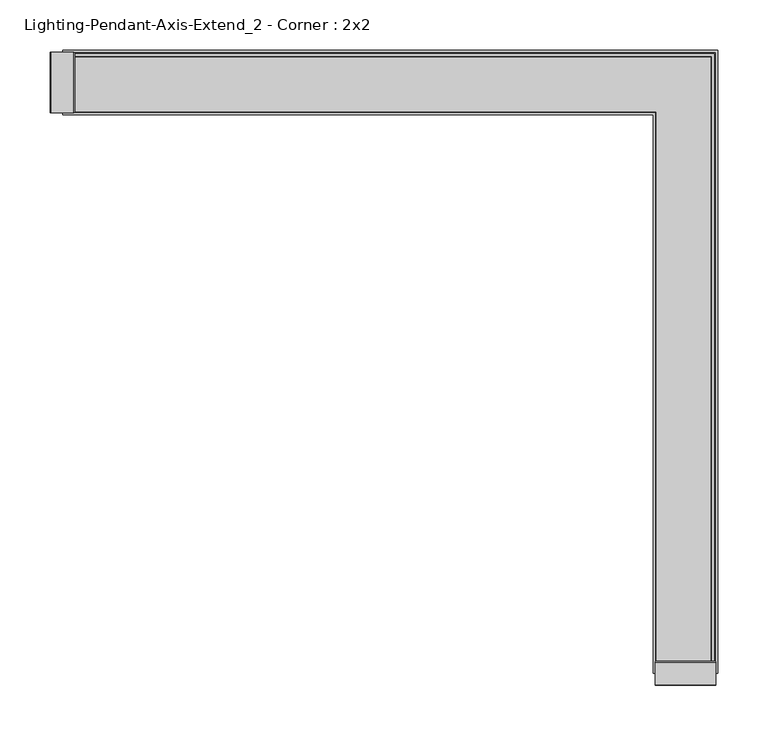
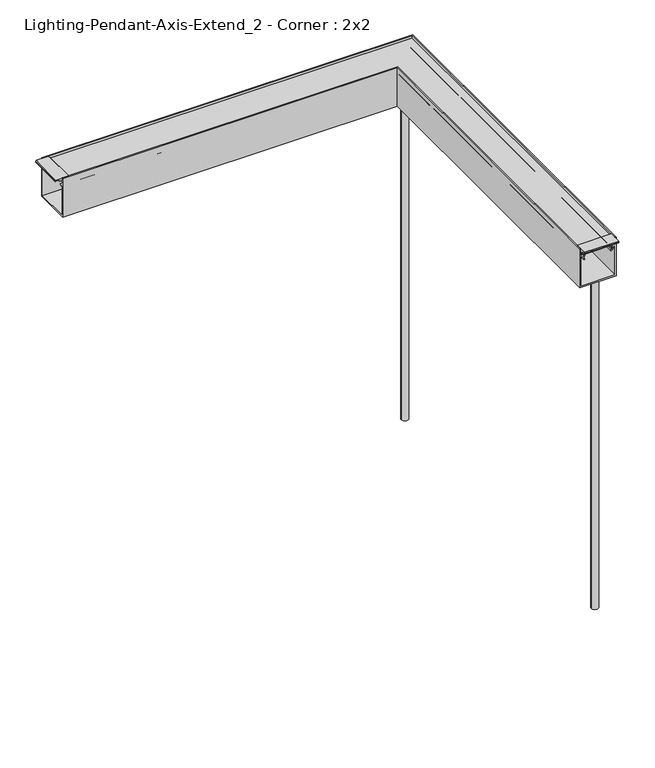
"""IFC4 building model written with IfcOpenShell, lengths in millimetres: light fixture geometry, Lighting-Pendant-Axis-Extend_2 - Corner : 2x2."""

from ifc_helpers import new_model, si_unit, frame, origin, place, context, project, spatial, polyline, circle_curve, ellipse_curve, outline, extrude, source, transform, mapped, element, save
from ifc_brep_helpers import plane_surface, cylinder_surface, revolved_surface, advanced_brep


def lighting_pendant_axis_extend_2_corner_2x2_e182f400(model_context):
    return source(origin(), model_context, "Body", "SolidModel", [
        advanced_brep(
        [(311.15, -577.596, 609.6), (298.45, -577.596, 609.6), (304.8, -577.596, 609.6), (311.15, -577.596, 0.0), (298.45, -577.596, 0.0), (304.8, -577.596, 0.0)],
        [
            (0, 1, circle_curve(frame((304.8, -577.596, 609.6), z_axis=(0.0, 0.0, 1.0), x_axis=(-1.0, 0.0, 0.0)), 6.35)),
            (1, 2),
            (2, 0),
            (1, 0, circle_curve(frame((304.8, -577.596, 609.6), z_axis=(0.0, 0.0, 1.0), x_axis=(-1.0, 0.0, 0.0)), 6.35)),
            (3, 4, circle_curve(frame((304.8, -577.596, 0.0), z_axis=(0.0, 0.0, 1.0), x_axis=(-1.0, 0.0, 0.0)), 6.35)),
            (4, 1),
            (0, 3),
            (4, 3, circle_curve(frame((304.8, -577.596, 0.0), z_axis=(0.0, 0.0, 1.0), x_axis=(-1.0, 0.0, 0.0)), 6.35)),
            (5, 4),
            (3, 5),
        ],
        [
            plane_surface(frame((304.8, -577.596, 609.6), z_axis=(0.0, 0.0, 1.0), x_axis=(-1.0, 0.0, 0.0))),
            cylinder_surface(frame((304.8, -577.596, 2913.8581012), z_axis=(0.0, 0.0, -1.0), x_axis=(-1.0, 0.0, 0.0)), 6.35),
            plane_surface(frame((304.8, -577.596, 0.0), z_axis=(0.0, 0.0, -1.0), x_axis=(-1.0, 0.0, 0.0))),
        ],
        [
            (0, [[1, 2, 3]]),
            (0, [[4, -3, -2]]),
            (1, [[5, 6, -1, 7]]),
            (1, [[8, -7, -4, -6]]),
            (2, [[9, -5, 10]]),
            (2, [[-10, -8, -9]]),
        ],
    ),
        extrude(outline(polyline([(-574.6496, 679.9357861), (-574.6496, 678.46575), (-575.44335, 678.46575), (-575.44335, 679.2595), (-581.914, 679.2595), (-581.914, 676.4532981), (-591.5914, 676.4532981), (-591.5914, 679.2595), (-598.06205, 679.2595), (-598.06205, 678.46575), (-598.8558, 678.46575), (-598.8558, 679.9357861), (-597.9312563, 681.0375), (-575.5741437, 681.0375), (-574.6496, 679.9357861)])), frame((274.828, 0.0, 0.0), z_axis=(1.0, 0.0, 0.0), x_axis=(0.0, 1.0, 0.0)), (0.0, 0.0, 1.0), 59.944),
        extrude(outline(polyline([(679.9357861, -301.8536), (681.0375, -302.7781437), (681.0375, -325.1352563), (679.9357861, -326.0598), (678.46575, -326.0598), (678.46575, -325.26605), (679.2595, -325.26605), (679.2595, -318.7954), (676.4532981, -318.7954), (676.4532981, -309.118), (679.2595, -309.118), (679.2595, -302.64735), (678.46575, -302.64735), (678.46575, -301.8536), (679.9357861, -301.8536)])), frame((0.0, -29.972, 0.0), z_axis=(0.0, 1.0, 0.0), x_axis=(0.0, 0.0, 1.0)), (0.0, 0.0, 1.0), 59.944),
        advanced_brep(
        [(311.15, 0.0, 609.6), (298.45, 0.0, 609.6), (304.8, 0.0, 609.6), (311.15, 0.0, 0.0), (298.45, 0.0, 0.0), (304.8, 0.0, 0.0)],
        [
            (0, 1, circle_curve(frame((304.8, 0.0, 609.6), z_axis=(0.0, 0.0, 1.0), x_axis=(-1.0, 0.0, 0.0)), 6.35)),
            (1, 2),
            (2, 0),
            (1, 0, circle_curve(frame((304.8, 0.0, 609.6), z_axis=(0.0, 0.0, 1.0), x_axis=(-1.0, 0.0, 0.0)), 6.35)),
            (3, 4, circle_curve(frame((304.8, 0.0, 0.0), z_axis=(0.0, 0.0, 1.0), x_axis=(-1.0, 0.0, 0.0)), 6.35)),
            (4, 1),
            (0, 3),
            (4, 3, circle_curve(frame((304.8, 0.0, 0.0), z_axis=(0.0, 0.0, 1.0), x_axis=(-1.0, 0.0, 0.0)), 6.35)),
            (5, 4),
            (3, 5),
        ],
        [
            plane_surface(frame((304.8, 0.0, 609.6), z_axis=(0.0, 0.0, 1.0), x_axis=(-1.0, 0.0, 0.0))),
            cylinder_surface(frame((304.8, 0.0, 2913.8581012), z_axis=(0.0, 0.0, -1.0), x_axis=(-1.0, 0.0, 0.0)), 6.35),
            plane_surface(frame((304.8, 0.0, 0.0), z_axis=(0.0, 0.0, -1.0), x_axis=(-1.0, 0.0, 0.0))),
        ],
        [
            (0, [[1, 2, 3]]),
            (0, [[4, -3, -2]]),
            (1, [[5, 6, -1, 7]]),
            (1, [[8, -7, -4, -6]]),
            (2, [[9, -5, 10]]),
            (2, [[-10, -8, -9]]),
        ],
    ),
        advanced_brep(
        [(-304.8, -24.1727262, 676.1479991), (-304.8, -24.5114181, 669.6853737), (-304.8, -25.3818814, 663.0794903), (-304.8, -24.5665956, 661.5817575), (-304.8, -23.2119066, 660.3823555), (-304.8, -24.192808, 659.0543369), (-304.8, -25.7659952, 660.4471908), (-304.8, -27.1108807, 664.27776), (-304.8, -25.4753941, 668.3169658), (-304.8, -26.1394859, 670.1661789), (-304.8, -25.825992, 676.1479991), (-304.8, -28.829, 676.1479991), (-304.8, -28.829, 678.053), (-304.8, 28.829, 678.053), (-304.8, 28.829, 676.1479991), (-304.8, 25.825992, 676.1479991), (-304.8, 26.1394859, 670.1661789), (-304.8, 25.4753941, 668.3169658), (-304.8, 27.1108807, 664.27776), (-304.8, 25.7659952, 660.4471908), (-304.8, 24.192808, 659.0543369), (-304.8, 23.2119066, 660.3823555), (-304.8, 24.5665956, 661.5817575), (-304.8, 25.3818814, 663.0794903), (-304.8, 24.5114181, 669.6853737), (-304.8, 24.1727262, 676.1479991), (280.6272738, -586.7527, 676.1479991), (328.9727262, -586.7527, 676.1479991), (329.3114181, -586.7527, 669.6853737), (330.1818814, -586.7527, 663.0794903), (329.3665956, -586.7527, 661.5817575), (328.0119066, -586.7527, 660.3823555), (328.992808, -586.7527, 659.0543369), (330.5659952, -586.7527, 660.4471908), (331.9108807, -586.7527, 664.27776), (330.2753941, -586.7527, 668.3169658), (330.9394859, -586.7527, 670.1661789), (330.625992, -586.7527, 676.1479991), (333.629, -586.7527, 676.1479991), (333.629, -586.7527, 678.053), (275.971, -586.7527, 678.053), (275.971, -586.7527, 676.1479991), (278.974008, -586.7527, 676.1479991), (278.6605141, -586.7527, 670.1661789), (279.3246059, -586.7527, 668.3169658), (277.6891193, -586.7527, 664.27776), (279.0340048, -586.7527, 660.4471908), (280.607192, -586.7527, 659.0543369), (281.5880934, -586.7527, 660.3823555), (280.2334044, -586.7527, 661.5817575), (279.4181186, -586.7527, 663.0794903), (280.2885819, -586.7527, 669.6853737), (280.6272738, -24.1727262, 676.1479991), (280.2885819, -24.5114181, 669.6853737), (279.4181186, -25.3818814, 663.0794903), (280.2334044, -24.5665956, 661.5817575), (281.5880934, -23.2119066, 660.3823555), (280.607192, -24.192808, 659.0543369), (279.0340048, -25.7659952, 660.4471908), (277.6891193, -27.1108807, 664.27776), (279.3246059, -25.4753941, 668.3169658), (278.6605141, -26.1394859, 670.1661789), (278.974008, -25.825992, 676.1479991), (275.971, -28.829, 676.1479991), (275.971, -28.829, 678.053), (333.629, 28.829, 678.053), (333.629, 28.829, 676.1479991), (330.625992, 25.825992, 676.1479991), (330.9394859, 26.1394859, 670.1661789), (330.2753941, 25.4753941, 668.3169658), (331.9108807, 27.1108807, 664.27776), (330.5659952, 25.7659952, 660.4471908), (328.992808, 24.192808, 659.0543369), (328.0119066, 23.2119066, 660.3823555), (329.3665956, 24.5665956, 661.5817575), (330.1818814, 25.3818814, 663.0794903), (329.3114181, 24.5114181, 669.6853737), (328.9727262, 24.1727262, 676.1479991)],
        [
            (0, 1),
            (1, 2, circle_curve(frame((-304.8, -27.2542, 666.6865), z_axis=(-1.0, 0.0, 0.0), x_axis=(0.0, 0.6748971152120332, 0.7379118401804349)), 4.064)),
            (2, 3, circle_curve(frame((-304.8, -22.149344, 663.8683457), z_axis=(1.0, 0.0, 0.0), x_axis=(0.0, -0.9714904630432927, -0.23707863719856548)), 3.3274001)),
            (3, 4, circle_curve(frame((-304.8, -17.1303177, 668.6160708), z_axis=(1.0, 0.0, 0.0), x_axis=(0.0, -0.7264901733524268, -0.68717685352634)), 10.2362001)),
            (4, 5, circle_curve(frame((-304.8, -23.7023573, 659.7183462), z_axis=(-1.0, 0.0, 0.0), x_axis=(0.0, 0.5941256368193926, 0.8043722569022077)), 0.8255)),
            (5, 6, circle_curve(frame((-304.8, -17.1303169, 668.6160717), z_axis=(-1.0, 0.0, 0.0), x_axis=(0.0, -0.594125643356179, -0.8043722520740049)), 11.8872013)),
            (6, 7, circle_curve(frame((-304.8, -22.149344, 663.8683457), z_axis=(-1.0, 0.0, 0.0), x_axis=(0.0, -0.7264685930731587, -0.6871996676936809)), 4.9784001)),
            (7, 8, circle_curve(frame((-304.8, -27.2542, 666.6865), z_axis=(1.0, 0.0, 0.0), x_axis=(0.0, 0.05939464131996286, -0.9982345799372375)), 2.413)),
            (8, 9, circle_curve(frame((-304.8, -23.6029669, 670.0332456), z_axis=(-1.0, 0.0, 0.0), x_axis=(0.0, -0.7371760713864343, -0.675700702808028)), 2.54)),
            (9, 10),
            (10, 11),
            (11, 12),
            (12, 13),
            (13, 14),
            (14, 15),
            (15, 16),
            (16, 17, circle_curve(frame((-304.8, 23.6029669, 670.0332456), z_axis=(-1.0, 0.0, 0.0), x_axis=(0.0, 0.9986295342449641, 0.05233596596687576)), 2.54)),
            (17, 18, circle_curve(frame((-304.8, 27.2542, 666.6865), z_axis=(1.0, 0.0, 0.0), x_axis=(0.0, -0.7371760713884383, 0.6757007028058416)), 2.413)),
            (18, 19, circle_curve(frame((-304.8, 22.149344, 663.8683457), z_axis=(-1.0, 0.0, 0.0), x_axis=(0.0, 0.9966127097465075, 0.0822381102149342)), 4.9784001)),
            (19, 20, circle_curve(frame((-304.8, 17.1303169, 668.6160717), z_axis=(-1.0, 0.0, 0.0), x_axis=(0.0, 0.7264685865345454, -0.6871996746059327)), 11.8872013)),
            (20, 21, circle_curve(frame((-304.8, 23.7023573, 659.7183462), z_axis=(-1.0, 0.0, 0.0), x_axis=(0.0, 0.5941256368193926, -0.8043722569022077)), 0.8255)),
            (21, 22, circle_curve(frame((-304.8, 17.1303177, 668.6160708), z_axis=(1.0, 0.0, 0.0), x_axis=(0.0, 0.5941256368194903, -0.8043722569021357)), 10.2362001)),
            (22, 23, circle_curve(frame((-304.8, 22.149344, 663.8683457), z_axis=(1.0, 0.0, 0.0), x_axis=(0.0, 0.7265349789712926, -0.6871294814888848)), 3.3274001)),
            (23, 24, circle_curve(frame((-304.8, 27.2542, 666.6865), z_axis=(-1.0, 0.0, 0.0), x_axis=(0.0, -0.46070831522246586, -0.8875516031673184)), 4.064)),
            (24, 25),
            (25, 0),
            (26, 27),
            (27, 28),
            (28, 29, circle_curve(frame((332.0542, -586.7527, 666.6865), z_axis=(0.0, -1.0, 0.0), x_axis=(-0.46070831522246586, 0.0, -0.8875516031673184)), 4.064)),
            (29, 30, circle_curve(frame((326.949344, -586.7527, 663.8683457), z_axis=(0.0, 1.0, 0.0), x_axis=(0.7265349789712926, 0.0, -0.6871294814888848)), 3.3274001)),
            (30, 31, circle_curve(frame((321.9303177, -586.7527, 668.6160708), z_axis=(0.0, 1.0, 0.0), x_axis=(0.5941256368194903, 0.0, -0.8043722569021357)), 10.2362001)),
            (31, 32, circle_curve(frame((328.5023573, -586.7527, 659.7183462), z_axis=(0.0, -1.0, 0.0), x_axis=(0.5941256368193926, 0.0, -0.8043722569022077)), 0.8255)),
            (32, 33, circle_curve(frame((321.9303169, -586.7527, 668.6160717), z_axis=(0.0, -1.0, 0.0), x_axis=(0.7264685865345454, 0.0, -0.6871996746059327)), 11.8872013)),
            (33, 34, circle_curve(frame((326.949344, -586.7527, 663.8683457), z_axis=(0.0, -1.0, 0.0), x_axis=(0.9966127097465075, 0.0, 0.0822381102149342)), 4.9784001)),
            (34, 35, circle_curve(frame((332.0542, -586.7527, 666.6865), z_axis=(0.0, 1.0, 0.0), x_axis=(-0.7371760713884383, 0.0, 0.6757007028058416)), 2.413)),
            (35, 36, circle_curve(frame((328.4029669, -586.7527, 670.0332456), z_axis=(0.0, -1.0, 0.0), x_axis=(0.9986295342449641, 0.0, 0.05233596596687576)), 2.54)),
            (36, 37),
            (37, 38),
            (38, 39),
            (39, 40),
            (40, 41),
            (41, 42),
            (42, 43),
            (43, 44, circle_curve(frame((281.1970331, -586.7527, 670.0332456), z_axis=(0.0, -1.0, 0.0), x_axis=(-0.7371760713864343, 0.0, -0.675700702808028)), 2.54)),
            (44, 45, circle_curve(frame((277.5458, -586.7527, 666.6865), z_axis=(0.0, 1.0, 0.0), x_axis=(0.05939464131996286, 0.0, -0.9982345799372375)), 2.413)),
            (45, 46, circle_curve(frame((282.650656, -586.7527, 663.8683457), z_axis=(0.0, -1.0, 0.0), x_axis=(-0.7264685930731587, 0.0, -0.6871996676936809)), 4.9784001)),
            (46, 47, circle_curve(frame((287.6696831, -586.7527, 668.6160717), z_axis=(0.0, -1.0, 0.0), x_axis=(-0.594125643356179, 0.0, -0.8043722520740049)), 11.8872013)),
            (47, 48, circle_curve(frame((281.0976427, -586.7527, 659.7183462), z_axis=(0.0, -1.0, 0.0), x_axis=(0.5941256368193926, 0.0, 0.8043722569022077)), 0.8255)),
            (48, 49, circle_curve(frame((287.6696823, -586.7527, 668.6160708), z_axis=(0.0, 1.0, 0.0), x_axis=(-0.7264901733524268, 0.0, -0.68717685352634)), 10.2362001)),
            (49, 50, circle_curve(frame((282.650656, -586.7527, 663.8683457), z_axis=(0.0, 1.0, 0.0), x_axis=(-0.9714904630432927, 0.0, -0.23707863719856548)), 3.3274001)),
            (50, 51, circle_curve(frame((277.5458, -586.7527, 666.6865), z_axis=(0.0, -1.0, 0.0), x_axis=(0.6748971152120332, 0.0, 0.7379118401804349)), 4.064)),
            (51, 26),
            (0, 52),
            (52, 53),
            (53, 1),
            (53, 54, ellipse_curve(frame((277.5458, -27.2542, 666.6865), z_axis=(-0.7071067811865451, 0.7071067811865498, 0.0), x_axis=(-0.70710678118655, -0.7071067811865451, 0.0)), 5.7473639, 4.064)),
            (54, 2),
            (54, 55, ellipse_curve(frame((282.650656, -22.149344, 663.8683457), z_axis=(0.7071067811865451, -0.7071067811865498, 0.0), x_axis=(0.70710678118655, 0.7071067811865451, 0.0)), 4.7056543, 3.3274001)),
            (55, 3),
            (55, 56, ellipse_curve(frame((287.6696823, -17.1303177, 668.6160708), z_axis=(0.7071067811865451, -0.7071067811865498, 0.0), x_axis=(0.70710678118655, 0.7071067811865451, 0.0)), 14.476173, 10.2362001)),
            (56, 4),
            (56, 57, ellipse_curve(frame((281.0976427, -23.7023573, 659.7183462), z_axis=(-0.7071067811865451, 0.7071067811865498, 0.0), x_axis=(-0.70710678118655, -0.7071067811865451, 0.0)), 1.1674333, 0.8255)),
            (57, 5),
            (57, 58, ellipse_curve(frame((287.6696831, -17.1303169, 668.6160717), z_axis=(-0.7071067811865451, 0.7071067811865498, 0.0), x_axis=(-0.70710678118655, -0.7071067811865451, 0.0)), 16.8110412, 11.8872013)),
            (58, 6),
            (58, 59, ellipse_curve(frame((282.650656, -22.149344, 663.8683457), z_axis=(-0.7071067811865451, 0.7071067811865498, 0.0), x_axis=(-0.70710678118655, -0.7071067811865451, 0.0)), 7.0405209, 4.9784001)),
            (59, 7),
            (59, 60, ellipse_curve(frame((277.5458, -27.2542, 666.6865), z_axis=(0.7071067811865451, -0.7071067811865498, 0.0), x_axis=(0.70710678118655, 0.7071067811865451, 0.0)), 3.4124973, 2.413)),
            (60, 8),
            (60, 61, ellipse_curve(frame((281.1970331, -23.6029669, 670.0332456), z_axis=(-0.7071067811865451, 0.7071067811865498, 0.0), x_axis=(-0.70710678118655, -0.7071067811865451, 0.0)), 3.5921024, 2.54)),
            (61, 9),
            (61, 62),
            (62, 10),
            (62, 42),
            (41, 63),
            (63, 11),
            (63, 64),
            (64, 12),
            (64, 40),
            (39, 65),
            (65, 13),
            (65, 66),
            (66, 14),
            (66, 38),
            (37, 67),
            (67, 15),
            (67, 68),
            (68, 16),
            (68, 69, ellipse_curve(frame((328.4029669, 23.6029669, 670.0332456), z_axis=(-0.7071067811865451, 0.7071067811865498, 0.0), x_axis=(-0.70710678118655, -0.7071067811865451, 0.0)), 3.5921024, 2.54)),
            (69, 17),
            (69, 70, ellipse_curve(frame((332.0542, 27.2542, 666.6865), z_axis=(0.7071067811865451, -0.7071067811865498, 0.0), x_axis=(0.70710678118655, 0.7071067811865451, 0.0)), 3.4124973, 2.413)),
            (70, 18),
            (70, 71, ellipse_curve(frame((326.949344, 22.149344, 663.8683457), z_axis=(-0.7071067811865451, 0.7071067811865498, 0.0), x_axis=(-0.70710678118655, -0.7071067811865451, 0.0)), 7.0405209, 4.9784001)),
            (71, 19),
            (71, 72, ellipse_curve(frame((321.9303169, 17.1303169, 668.6160717), z_axis=(-0.7071067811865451, 0.7071067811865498, 0.0), x_axis=(-0.70710678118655, -0.7071067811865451, 0.0)), 16.8110412, 11.8872013)),
            (72, 20),
            (72, 73, ellipse_curve(frame((328.5023573, 23.7023573, 659.7183462), z_axis=(-0.7071067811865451, 0.7071067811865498, 0.0), x_axis=(-0.70710678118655, -0.7071067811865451, 0.0)), 1.1674333, 0.8255)),
            (73, 21),
            (73, 74, ellipse_curve(frame((321.9303177, 17.1303177, 668.6160708), z_axis=(0.7071067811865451, -0.7071067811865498, 0.0), x_axis=(0.70710678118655, 0.7071067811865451, 0.0)), 14.476173, 10.2362001)),
            (74, 22),
            (74, 75, ellipse_curve(frame((326.949344, 22.149344, 663.8683457), z_axis=(0.7071067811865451, -0.7071067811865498, 0.0), x_axis=(0.70710678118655, 0.7071067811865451, 0.0)), 4.7056543, 3.3274001)),
            (75, 23),
            (75, 76, ellipse_curve(frame((332.0542, 27.2542, 666.6865), z_axis=(-0.7071067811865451, 0.7071067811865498, 0.0), x_axis=(-0.70710678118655, -0.7071067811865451, 0.0)), 5.7473639, 4.064)),
            (76, 24),
            (76, 77),
            (77, 25),
            (77, 27),
            (26, 52),
            (51, 53),
            (50, 54),
            (49, 55),
            (48, 56),
            (47, 57),
            (46, 58),
            (45, 59),
            (44, 60),
            (43, 61),
            (36, 68),
            (35, 69),
            (34, 70),
            (33, 71),
            (32, 72),
            (31, 73),
            (30, 74),
            (29, 75),
            (28, 76),
        ],
        [
            plane_surface(frame((-304.8, 0.0, 0.0), z_axis=(-1.0, 0.0, 0.0), x_axis=(0.0, 0.0, 1.0))),
            plane_surface(frame((304.8, -586.7527, 0.0), z_axis=(0.0, -1.0, 0.0), x_axis=(0.0, 0.0, 1.0))),
            plane_surface(frame((-304.8, -24.1727262, 676.1479991), z_axis=(0.0, 0.9986295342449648, -0.05233596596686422), x_axis=(1.0, 0.0, 0.0))),
            cylinder_surface(frame((-304.8, -27.2542, 666.6865), z_axis=(-1.0, 0.0, 0.0), x_axis=(0.0, 0.6748971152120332, 0.7379118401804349)), 4.064),
            revolved_surface(polyline([(285.97805606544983, -25.3818814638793, 663.0794902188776), (-304.8, -25.3818814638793, 663.0794902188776)]), (-304.8, -22.149344, 663.8683457), (1.0000000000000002, 0.0, 0.0)),
            revolved_surface(polyline([(297.9058823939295, -24.566816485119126, 661.581991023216), (-304.8, -24.566816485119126, 661.581991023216)]), (-304.8, -17.1303177, 668.6160708), (1.0, 0.0, 0.0)),
            cylinder_surface(frame((-304.8, -23.7023573, 659.7183462), z_axis=(-1.0, 0.0, 0.0), x_axis=(0.0, 0.5941256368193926, 0.8043722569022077)), 0.8255),
            cylinder_surface(frame((-304.8, -17.1303169, 668.6160717), z_axis=(-1.0, 0.0, 0.0), x_axis=(0.0, -0.594125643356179, -0.8043722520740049)), 11.8872013),
            cylinder_surface(frame((-304.8, -22.149344, 663.8683457), z_axis=(-1.0, 0.0, 0.0), x_axis=(0.0, -0.7264685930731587, -0.6871996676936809)), 4.9784001),
            revolved_surface(polyline([(279.95879998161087, -27.11088073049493, 664.2777599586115), (-304.8, -27.11088073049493, 664.2777599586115)]), (-304.8, -27.2542, 666.6865), (1.0, 0.0, 0.0)),
            cylinder_surface(frame((-304.8, -23.6029669, 670.0332456), z_axis=(-1.0, 0.0, 0.0), x_axis=(0.0, -0.7371760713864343, -0.675700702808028)), 2.54),
            plane_surface(frame((-304.8, -26.1394859, 670.1661789), z_axis=(0.0, -0.9986295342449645, 0.05233596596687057), x_axis=(1.0, 0.0, 0.0))),
            plane_surface(frame((-304.8, -25.825992, 676.1479991), z_axis=(0.0, 0.0, -1.0), x_axis=(1.0, 0.0, 0.0))),
            plane_surface(frame((-304.8, -28.829, 676.1479991), z_axis=(0.0, -1.0, 0.0), x_axis=(1.0, 0.0, 0.0))),
            plane_surface(frame((-304.8, -28.829, 678.053), z_axis=(0.0, 0.0, 1.0), x_axis=(1.0, 0.0, 0.0))),
            plane_surface(frame((-304.8, 28.829, 678.053), z_axis=(0.0, 1.0, 0.0), x_axis=(1.0, 0.0, 0.0))),
            plane_surface(frame((-304.8, 28.829, 676.1479991), z_axis=(0.0, 0.0, -1.0), x_axis=(1.0, 0.0, 0.0))),
            plane_surface(frame((-304.8, 25.825992, 676.1479991), z_axis=(0.0, 0.9986295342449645, 0.05233596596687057), x_axis=(1.0, 0.0, 0.0))),
            cylinder_surface(frame((-304.8, 23.6029669, 670.0332456), z_axis=(-1.0, 0.0, 0.0), x_axis=(0.0, 0.9986295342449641, 0.05233596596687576)), 2.54),
            revolved_surface(polyline([(334.46719998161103, 25.4753941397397, 668.3169657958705), (-304.8, 25.4753941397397, 668.3169657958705)]), (-304.8, 27.2542, 666.6865), (1.0000000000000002, 0.0, 0.0)),
            cylinder_surface(frame((-304.8, 22.149344, 663.8683457), z_axis=(-1.0000000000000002, 0.0, 0.0), x_axis=(0.0, 0.9966127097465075, 0.0822381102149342)), 4.9784001),
            cylinder_surface(frame((-304.8, 17.1303169, 668.6160717), z_axis=(-1.0, 0.0, 0.0), x_axis=(0.0, 0.7264685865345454, -0.6871996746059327)), 11.8872013),
            cylinder_surface(frame((-304.8, 23.7023573, 659.7183462), z_axis=(-1.0, 0.0, 0.0), x_axis=(0.0, 0.5941256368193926, -0.8043722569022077)), 0.8255),
            revolved_surface(polyline([(332.1665177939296, 23.21190660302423, 660.3823554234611), (-304.8, 23.21190660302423, 660.3823554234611)]), (-304.8, 17.1303177, 668.6160708), (1.0, 0.0, 0.0)),
            revolved_surface(polyline([(330.2767440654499, 24.566816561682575, 661.5819909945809), (-304.8, 24.566816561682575, 661.5819909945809)]), (-304.8, 22.149344, 663.8683457), (1.0000000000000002, 0.0, 0.0)),
            cylinder_surface(frame((-304.8, 27.2542, 666.6865), z_axis=(-1.0, 0.0, 0.0), x_axis=(0.0, -0.46070831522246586, -0.8875516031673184)), 4.064),
            plane_surface(frame((-304.8, 24.5114181, 669.6853737), z_axis=(0.0, -0.9986295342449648, -0.05233596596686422), x_axis=(1.0, 0.0, 0.0))),
            plane_surface(frame((-304.8, 24.1727262, 676.1479991), z_axis=(0.0, 0.0, -1.0), x_axis=(1.0, 0.0, 0.0))),
            plane_surface(frame((280.6272738, -24.1727262, 676.1479991), z_axis=(0.9986295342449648, 0.0, -0.05233596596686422), x_axis=(0.0, -1.0, 0.0))),
            cylinder_surface(frame((277.5458, 0.0, 666.6865), z_axis=(0.0, 1.0, 0.0), x_axis=(0.6748971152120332, 0.0, 0.7379118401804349)), 4.064),
            revolved_surface(polyline([(279.41811853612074, -586.7527000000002, 663.0794902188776), (279.41811853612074, -18.82194393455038, 663.0794902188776)]), (282.650656, 0.0, 663.8683457), (0.0, -1.0000000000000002, 0.0)),
            revolved_surface(polyline([(280.23318351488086, -586.7527, 661.581991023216), (280.23318351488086, -6.894117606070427, 661.581991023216)]), (287.6696823, 0.0, 668.6160708), (0.0, -1.0, 0.0)),
            cylinder_surface(frame((281.0976427, 0.0, 659.7183462), z_axis=(0.0, 1.0, 0.0), x_axis=(0.5941256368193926, 0.0, 0.8043722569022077)), 0.8255),
            cylinder_surface(frame((287.6696831, 0.0, 668.6160717), z_axis=(0.0, 1.0, 0.0), x_axis=(-0.594125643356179, 0.0, -0.8043722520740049)), 11.8872013),
            cylinder_surface(frame((282.650656, 0.0, 663.8683457), z_axis=(0.0, 1.0, 0.0), x_axis=(-0.7264685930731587, 0.0, -0.6871996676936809)), 4.9784001),
            revolved_surface(polyline([(277.68911926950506, -586.7527, 664.2777599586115), (277.68911926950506, -24.841200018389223, 664.2777599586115)]), (277.5458, 0.0, 666.6865), (0.0, -1.0, 0.0)),
            cylinder_surface(frame((281.1970331, 0.0, 670.0332456), z_axis=(0.0, 1.0, 0.0), x_axis=(-0.7371760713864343, 0.0, -0.675700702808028)), 2.54),
            plane_surface(frame((278.6605141, -26.1394859, 670.1661789), z_axis=(-0.9986295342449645, 0.0, 0.05233596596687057), x_axis=(0.0, -1.0, 0.0))),
            plane_surface(frame((275.971, -28.829, 676.1479991), z_axis=(-1.0, 0.0, 0.0), x_axis=(0.0, -1.0, 0.0))),
            plane_surface(frame((333.629, 28.829, 678.053), z_axis=(1.0, 0.0, 0.0), x_axis=(0.0, -1.0, 0.0))),
            plane_surface(frame((330.625992, 25.825992, 676.1479991), z_axis=(0.9986295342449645, 0.0, 0.05233596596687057), x_axis=(0.0, -1.0, 0.0))),
            cylinder_surface(frame((328.4029669, 0.0, 670.0332456), z_axis=(0.0, 1.0, 0.0), x_axis=(0.9986295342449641, 0.0, 0.05233596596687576)), 2.54),
            revolved_surface(polyline([(330.27539413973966, -586.7527000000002, 668.3169657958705), (330.27539413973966, 29.667199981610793, 668.3169657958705)]), (332.0542, 0.0, 666.6865), (0.0, -1.0000000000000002, 0.0)),
            cylinder_surface(frame((326.949344, 0.0, 663.8683457), z_axis=(0.0, 1.0000000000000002, 0.0), x_axis=(0.9966127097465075, 0.0, 0.0822381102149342)), 4.9784001),
            cylinder_surface(frame((321.9303169, 0.0, 668.6160717), z_axis=(0.0, 1.0, 0.0), x_axis=(0.7264685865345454, 0.0, -0.6871996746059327)), 11.8872013),
            cylinder_surface(frame((328.5023573, 0.0, 659.7183462), z_axis=(0.0, 1.0, 0.0), x_axis=(0.5941256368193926, 0.0, -0.8043722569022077)), 0.8255),
            revolved_surface(polyline([(328.0119066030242, -586.7527, 660.3823554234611), (328.0119066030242, 27.36651779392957, 660.3823554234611)]), (321.9303177, 0.0, 668.6160708), (0.0, -1.0, 0.0)),
            revolved_surface(polyline([(329.3668165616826, -586.7527000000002, 661.5819909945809), (329.3668165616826, 25.476744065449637, 661.5819909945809)]), (326.949344, 0.0, 663.8683457), (0.0, -1.0000000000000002, 0.0)),
            cylinder_surface(frame((332.0542, 0.0, 666.6865), z_axis=(0.0, 1.0, 0.0), x_axis=(-0.46070831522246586, 0.0, -0.8875516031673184)), 4.064),
            plane_surface(frame((329.3114181, 24.5114181, 669.6853737), z_axis=(-0.9986295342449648, 0.0, -0.05233596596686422), x_axis=(0.0, -1.0, 0.0))),
        ],
        [
            (0, [[1, 2, 3, 4, 5, 6, 7, 8, 9, 10, 11, 12, 13, 14, 15, 16, 17, 18, 19, 20, 21, 22, 23, 24, 25, 26]]),
            (1, [[27, 28, 29, 30, 31, 32, 33, 34, 35, 36, 37, 38, 39, 40, 41, 42, 43, 44, 45, 46, 47, 48, 49, 50, 51, 52]]),
            (2, [[-1, 53, 54, 55]]),
            (3, [[-2, -55, 56, 57]]),
            (4, [[-3, -57, 58, 59]]),
            (5, [[-4, -59, 60, 61]]),
            (6, [[-5, -61, 62, 63]]),
            (7, [[-6, -63, 64, 65]]),
            (8, [[-7, -65, 66, 67]]),
            (9, [[-8, -67, 68, 69]]),
            (10, [[-9, -69, 70, 71]]),
            (11, [[-10, -71, 72, 73]]),
            (12, [[-11, -73, 74, -42, 75, 76]]),
            (13, [[-12, -76, 77, 78]]),
            (14, [[-13, -78, 79, -40, 80, 81]]),
            (15, [[-14, -81, 82, 83]]),
            (16, [[-15, -83, 84, -38, 85, 86]]),
            (17, [[-16, -86, 87, 88]]),
            (18, [[-17, -88, 89, 90]]),
            (19, [[-18, -90, 91, 92]]),
            (20, [[-19, -92, 93, 94]]),
            (21, [[-20, -94, 95, 96]]),
            (22, [[-21, -96, 97, 98]]),
            (23, [[-22, -98, 99, 100]]),
            (24, [[-23, -100, 101, 102]]),
            (25, [[-24, -102, 103, 104]]),
            (26, [[-25, -104, 105, 106]]),
            (27, [[-26, -106, 107, -27, 108, -53]]),
            (28, [[-54, -108, -52, 109]]),
            (29, [[-56, -109, -51, 110]]),
            (30, [[-58, -110, -50, 111]]),
            (31, [[-60, -111, -49, 112]]),
            (32, [[-62, -112, -48, 113]]),
            (33, [[-64, -113, -47, 114]]),
            (34, [[-66, -114, -46, 115]]),
            (35, [[-68, -115, -45, 116]]),
            (36, [[-70, -116, -44, 117]]),
            (37, [[-72, -117, -43, -74]]),
            (38, [[-77, -75, -41, -79]]),
            (39, [[-82, -80, -39, -84]]),
            (40, [[-87, -85, -37, 118]]),
            (41, [[-89, -118, -36, 119]]),
            (42, [[-91, -119, -35, 120]]),
            (43, [[-93, -120, -34, 121]]),
            (44, [[-95, -121, -33, 122]]),
            (45, [[-97, -122, -32, 123]]),
            (46, [[-99, -123, -31, 124]]),
            (47, [[-101, -124, -30, 125]]),
            (48, [[-103, -125, -29, 126]]),
            (49, [[-105, -126, -28, -107]]),
        ],
    ),
        advanced_brep(
        [(-313.9567, -29.972, 666.1277), (-313.9567, -29.972, 611.632), (-313.9567, 29.972, 611.632), (-313.9567, 29.972, 666.1277), (-313.9567, 28.1325797, 666.1277), (-313.9567, 25.8730546, 664.8231626), (-313.9567, 24.6896516, 667.0783682), (-313.9567, 28.067, 669.9123), (-313.9567, 28.067, 668.1597), (-313.9567, 29.972, 668.1597), (-313.9567, 29.972, 674.6875), (-313.9567, 28.067, 674.6875), (-313.9567, 28.067, 673.1635), (-313.9567, 26.416, 673.2500252), (-313.9567, 26.416, 675.9575), (-313.9567, 29.972, 675.9575), (-313.9567, 29.972, 681.0375), (-313.9567, 32.004, 681.0375), (-313.9567, 32.004, 609.6), (-313.9567, -32.004, 609.6), (-313.9567, -32.004, 681.0375), (-313.9567, -29.972, 681.0375), (-313.9567, -29.972, 675.9575), (-313.9567, -26.416, 675.9575), (-313.9567, -26.416, 673.2500252), (-313.9567, -28.067, 673.1635), (-313.9567, -28.067, 674.6875), (-313.9567, -29.972, 674.6875), (-313.9567, -29.972, 668.1597), (-313.9567, -28.067, 668.1597), (-313.9567, -28.067, 669.9123), (-313.9567, -24.6896516, 667.0783682), (-313.9567, -25.8730546, 664.8231626), (-313.9567, -28.1325797, 666.1277), (274.828, -586.7527, 666.1277), (276.6674203, -586.7527, 666.1277), (278.9269454, -586.7527, 664.8231626), (280.1103484, -586.7527, 667.0783682), (276.733, -586.7527, 669.9123), (276.733, -586.7527, 668.1597), (274.828, -586.7527, 668.1597), (274.828, -586.7527, 674.6875), (276.733, -586.7527, 674.6875), (276.733, -586.7527, 673.1635), (278.384, -586.7527, 673.2500252), (278.384, -586.7527, 675.9575), (274.828, -586.7527, 675.9575), (274.828, -586.7527, 681.0375), (272.796, -586.7527, 681.0375), (272.796, -586.7527, 609.6), (336.804, -586.7527, 609.6), (336.804, -586.7527, 681.0375), (334.772, -586.7527, 681.0375), (334.772, -586.7527, 675.9575), (331.216, -586.7527, 675.9575), (331.216, -586.7527, 673.2500252), (332.867, -586.7527, 673.1635), (332.867, -586.7527, 674.6875), (334.772, -586.7527, 674.6875), (334.772, -586.7527, 668.1597), (332.867, -586.7527, 668.1597), (332.867, -586.7527, 669.9123), (329.4896516, -586.7527, 667.0783682), (330.6730546, -586.7527, 664.8231626), (332.9325797, -586.7527, 666.1277), (334.772, -586.7527, 666.1277), (334.772, -586.7527, 611.632), (274.828, -586.7527, 611.632), (274.828, -29.972, 666.1277), (274.828, -29.972, 611.632), (334.772, 29.972, 611.632), (334.772, 29.972, 666.1277), (332.9325797, 28.1325797, 666.1277), (330.6730546, 25.8730546, 664.8231626), (329.4896516, 24.6896516, 667.0783682), (332.867, 28.067, 669.9123), (332.867, 28.067, 668.1597), (334.772, 29.972, 668.1597), (334.772, 29.972, 674.6875), (332.867, 28.067, 674.6875), (332.867, 28.067, 673.1635), (331.216, 26.416, 673.2500252), (331.216, 26.416, 675.9575), (334.772, 29.972, 675.9575), (334.772, 29.972, 681.0375), (336.804, 32.004, 681.0375), (336.804, 32.004, 609.6), (272.796, -32.004, 609.6), (272.796, -32.004, 681.0375), (274.828, -29.972, 681.0375), (274.828, -29.972, 675.9575), (278.384, -26.416, 675.9575), (278.384, -26.416, 673.2500252), (276.733, -28.067, 673.1635), (276.733, -28.067, 674.6875), (274.828, -29.972, 674.6875), (274.828, -29.972, 668.1597), (276.733, -28.067, 668.1597), (276.733, -28.067, 669.9123), (280.1103484, -24.6896516, 667.0783682), (278.9269454, -25.8730546, 664.8231626), (276.6674203, -28.1325797, 666.1277)],
        [
            (0, 1),
            (1, 2),
            (2, 3),
            (3, 4),
            (4, 5, circle_curve(frame((-313.9567, 26.6262297, 666.1277), z_axis=(-1.0, 0.0, 0.0), x_axis=(0.0, -0.5000000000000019, -0.8660254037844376)), 1.5063501)),
            (5, 6, circle_curve(frame((-313.9567, 27.0642121, 666.8863079), z_axis=(-1.0, 0.0, 0.0), x_axis=(0.0, -0.9967449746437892, 0.08061920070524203)), 2.382315)),
            (6, 7),
            (7, 8),
            (8, 9),
            (9, 10),
            (10, 11),
            (11, 12),
            (12, 13),
            (13, 14),
            (14, 15),
            (15, 16),
            (16, 17),
            (17, 18),
            (18, 19),
            (19, 20),
            (20, 21),
            (21, 22),
            (22, 23),
            (23, 24),
            (24, 25),
            (25, 26),
            (26, 27),
            (27, 28),
            (28, 29),
            (29, 30),
            (30, 31),
            (31, 32, circle_curve(frame((-313.9567, -27.0642121, 666.8863079), z_axis=(-1.0, 0.0, 0.0), x_axis=(0.0, 0.5000000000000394, -0.866025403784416)), 2.382315)),
            (32, 33, circle_curve(frame((-313.9567, -26.6262297, 666.1277), z_axis=(-1.0, 0.0, 0.0), x_axis=(0.0, -1.0, 0.0)), 1.5063501)),
            (33, 0),
            (34, 35),
            (35, 36, circle_curve(frame((278.1737703, -586.7527, 666.1277), z_axis=(0.0, -1.0, 0.0), x_axis=(-1.0, 0.0, 0.0)), 1.5063501)),
            (36, 37, circle_curve(frame((277.7357879, -586.7527, 666.8863079), z_axis=(0.0, -1.0, 0.0), x_axis=(0.5000000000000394, 0.0, -0.866025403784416)), 2.382315)),
            (37, 38),
            (38, 39),
            (39, 40),
            (40, 41),
            (41, 42),
            (42, 43),
            (43, 44),
            (44, 45),
            (45, 46),
            (46, 47),
            (47, 48),
            (48, 49),
            (49, 50),
            (50, 51),
            (51, 52),
            (52, 53),
            (53, 54),
            (54, 55),
            (55, 56),
            (56, 57),
            (57, 58),
            (58, 59),
            (59, 60),
            (60, 61),
            (61, 62),
            (62, 63, circle_curve(frame((331.8642121, -586.7527, 666.8863079), z_axis=(0.0, -1.0, 0.0), x_axis=(-0.9967449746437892, 0.0, 0.08061920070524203)), 2.382315)),
            (63, 64, circle_curve(frame((331.4262297, -586.7527, 666.1277), z_axis=(0.0, -1.0, 0.0), x_axis=(-0.5000000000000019, 0.0, -0.8660254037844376)), 1.5063501)),
            (64, 65),
            (65, 66),
            (66, 67),
            (67, 34),
            (0, 68),
            (68, 69),
            (69, 1),
            (69, 67),
            (66, 70),
            (70, 2),
            (70, 71),
            (71, 3),
            (71, 65),
            (64, 72),
            (72, 4),
            (72, 73, ellipse_curve(frame((331.4262297, 26.6262297, 666.1277), z_axis=(-0.7071067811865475, 0.7071067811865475, 0.0), x_axis=(-0.7071067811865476, -0.7071067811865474, 0.0)), 2.1303007, 1.5063501)),
            (73, 5),
            (73, 74, ellipse_curve(frame((331.8642121, 27.0642121, 666.8863079), z_axis=(-0.7071067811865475, 0.7071067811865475, 0.0), x_axis=(-0.7071067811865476, -0.7071067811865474, 0.0)), 3.3691022, 2.382315)),
            (74, 6),
            (74, 75),
            (75, 7),
            (75, 76),
            (76, 8),
            (76, 60),
            (59, 77),
            (77, 9),
            (77, 78),
            (78, 10),
            (78, 58),
            (57, 79),
            (79, 11),
            (79, 80),
            (80, 12),
            (80, 81),
            (81, 13),
            (81, 82),
            (82, 14),
            (82, 54),
            (53, 83),
            (83, 15),
            (83, 84),
            (84, 16),
            (84, 52),
            (51, 85),
            (85, 17),
            (85, 86),
            (86, 18),
            (86, 50),
            (49, 87),
            (87, 19),
            (87, 88),
            (88, 20),
            (88, 48),
            (47, 89),
            (89, 21),
            (89, 90),
            (90, 22),
            (90, 46),
            (45, 91),
            (91, 23),
            (91, 92),
            (92, 24),
            (92, 93),
            (93, 25),
            (93, 94),
            (94, 26),
            (94, 42),
            (41, 95),
            (95, 27),
            (95, 96),
            (96, 28),
            (96, 40),
            (39, 97),
            (97, 29),
            (97, 98),
            (98, 30),
            (98, 99),
            (99, 31),
            (99, 100, ellipse_curve(frame((277.7357879, -27.0642121, 666.8863079), z_axis=(-0.7071067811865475, 0.7071067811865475, 0.0), x_axis=(-0.7071067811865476, -0.7071067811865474, 0.0)), 3.3691022, 2.382315)),
            (100, 32),
            (100, 101, ellipse_curve(frame((278.1737703, -26.6262297, 666.1277), z_axis=(-0.7071067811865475, 0.7071067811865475, 0.0), x_axis=(-0.7071067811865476, -0.7071067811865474, 0.0)), 2.1303007, 1.5063501)),
            (101, 33),
            (101, 35),
            (34, 68),
            (63, 73),
            (62, 74),
            (61, 75),
            (56, 80),
            (55, 81),
            (44, 92),
            (43, 93),
            (38, 98),
            (37, 99),
            (36, 100),
        ],
        [
            plane_surface(frame((-313.9567, 0.0, 0.0), z_axis=(-1.0, 0.0, 0.0), x_axis=(0.0, 0.0, 1.0))),
            plane_surface(frame((304.8, -586.7527, 0.0), z_axis=(0.0, -1.0, 0.0), x_axis=(0.0, 0.0, 1.0))),
            plane_surface(frame((-313.9567, -29.972, 666.1277), z_axis=(0.0, 1.0, 0.0), x_axis=(1.0, 0.0, 0.0))),
            plane_surface(frame((-313.9567, -29.972, 611.632), z_axis=(0.0, 0.0, 1.0), x_axis=(1.0, 0.0, 0.0))),
            plane_surface(frame((-313.9567, 29.972, 611.632), z_axis=(0.0, -1.0, 0.0), x_axis=(1.0, 0.0, 0.0))),
            plane_surface(frame((-313.9567, 29.972, 666.1277), z_axis=(0.0, 0.0, -1.0), x_axis=(1.0, 0.0, 0.0))),
            cylinder_surface(frame((-313.9567, 26.6262297, 666.1277), z_axis=(-1.0, 0.0, 0.0), x_axis=(0.0, -0.5000000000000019, -0.8660254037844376)), 1.5063501),
            cylinder_surface(frame((-313.9567, 27.0642121, 666.8863079), z_axis=(-1.0000000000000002, 0.0, 0.0), x_axis=(0.0, -0.9967449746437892, 0.08061920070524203)), 2.382315),
            plane_surface(frame((-313.9567, 24.6896516, 667.0783682), z_axis=(0.0, -0.6427876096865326, 0.7660444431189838), x_axis=(1.0, 0.0, 0.0))),
            plane_surface(frame((-313.9567, 28.067, 669.9123), z_axis=(0.0, 1.0, 0.0), x_axis=(1.0, 0.0, 0.0))),
            plane_surface(frame((-313.9567, 28.067, 668.1597), z_axis=(0.0, 0.0, 1.0), x_axis=(1.0, 0.0, 0.0))),
            plane_surface(frame((-313.9567, 29.972, 668.1597), z_axis=(0.0, -1.0, 0.0), x_axis=(1.0, 0.0, 0.0))),
            plane_surface(frame((-313.9567, 29.972, 674.6875), z_axis=(0.0, 0.0, -1.0), x_axis=(1.0, 0.0, 0.0))),
            plane_surface(frame((-313.9567, 28.067, 674.6875), z_axis=(0.0, 1.0, 0.0), x_axis=(1.0, 0.0, 0.0))),
            plane_surface(frame((-313.9567, 28.067, 673.1635), z_axis=(0.0, -0.052335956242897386, -0.9986295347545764), x_axis=(1.0, 0.0, 0.0))),
            plane_surface(frame((-313.9567, 26.416, 673.2500252), z_axis=(0.0, -1.0, 0.0), x_axis=(1.0, 0.0, 0.0))),
            plane_surface(frame((-313.9567, 26.416, 675.9575), z_axis=(0.0, 0.0, 1.0), x_axis=(1.0, 0.0, 0.0))),
            plane_surface(frame((-313.9567, 29.972, 675.9575), z_axis=(0.0, -1.0, 0.0), x_axis=(1.0, 0.0, 0.0))),
            plane_surface(frame((-313.9567, 29.972, 681.0375), z_axis=(0.0, 0.0, 1.0), x_axis=(1.0, 0.0, 0.0))),
            plane_surface(frame((-313.9567, 32.004, 681.0375), z_axis=(0.0, 1.0, 0.0), x_axis=(1.0, 0.0, 0.0))),
            plane_surface(frame((-313.9567, 32.004, 609.6), z_axis=(0.0, 0.0, -1.0), x_axis=(1.0, 0.0, 0.0))),
            plane_surface(frame((-313.9567, -32.004, 609.6), z_axis=(0.0, -1.0, 0.0), x_axis=(1.0, 0.0, 0.0))),
            plane_surface(frame((-313.9567, -32.004, 681.0375), z_axis=(0.0, 0.0, 1.0), x_axis=(1.0, 0.0, 0.0))),
            plane_surface(frame((-313.9567, -29.972, 681.0375), z_axis=(0.0, 1.0, 0.0), x_axis=(1.0, 0.0, 0.0))),
            plane_surface(frame((-313.9567, -29.972, 675.9575), z_axis=(0.0, 0.0, 1.0), x_axis=(1.0, 0.0, 0.0))),
            plane_surface(frame((-313.9567, -26.416, 675.9575), z_axis=(0.0, 1.0, 0.0), x_axis=(1.0, 0.0, 0.0))),
            plane_surface(frame((-313.9567, -26.416, 673.2500252), z_axis=(0.0, 0.052335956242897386, -0.9986295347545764), x_axis=(1.0, 0.0, 0.0))),
            plane_surface(frame((-313.9567, -28.067, 673.1635), z_axis=(0.0, -1.0, 0.0), x_axis=(1.0, 0.0, 0.0))),
            plane_surface(frame((-313.9567, -28.067, 674.6875), z_axis=(0.0, 0.0, -1.0), x_axis=(1.0, 0.0, 0.0))),
            plane_surface(frame((-313.9567, -29.972, 674.6875), z_axis=(0.0, 1.0, 0.0), x_axis=(1.0, 0.0, 0.0))),
            plane_surface(frame((-313.9567, -29.972, 668.1597), z_axis=(0.0, 0.0, 1.0), x_axis=(1.0, 0.0, 0.0))),
            plane_surface(frame((-313.9567, -28.067, 668.1597), z_axis=(0.0, -1.0, 0.0), x_axis=(1.0, 0.0, 0.0))),
            plane_surface(frame((-313.9567, -28.067, 669.9123), z_axis=(0.0, 0.6427876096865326, 0.7660444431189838), x_axis=(1.0, 0.0, 0.0))),
            cylinder_surface(frame((-313.9567, -27.0642121, 666.8863079), z_axis=(-1.0, 0.0, 0.0), x_axis=(0.0, 0.5000000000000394, -0.866025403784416)), 2.382315),
            cylinder_surface(frame((-313.9567, -26.6262297, 666.1277), z_axis=(-1.0, 0.0, 0.0), x_axis=(0.0, -1.0, 0.0)), 1.5063501),
            plane_surface(frame((-313.9567, -28.1325797, 666.1277), z_axis=(0.0, 0.0, -1.0), x_axis=(1.0, 0.0, 0.0))),
            plane_surface(frame((274.828, -29.972, 666.1277), z_axis=(1.0, 0.0, 0.0), x_axis=(0.0, -1.0, 0.0))),
            plane_surface(frame((334.772, 29.972, 611.632), z_axis=(-1.0, 0.0, 0.0), x_axis=(0.0, -1.0, 0.0))),
            cylinder_surface(frame((331.4262297, 0.0, 666.1277), z_axis=(0.0, 1.0, 0.0), x_axis=(-0.5000000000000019, 0.0, -0.8660254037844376)), 1.5063501),
            cylinder_surface(frame((331.8642121, 0.0, 666.8863079), z_axis=(0.0, 1.0000000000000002, 0.0), x_axis=(-0.9967449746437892, 0.0, 0.08061920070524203)), 2.382315),
            plane_surface(frame((329.4896516, 24.6896516, 667.0783682), z_axis=(-0.6427876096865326, 0.0, 0.7660444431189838), x_axis=(0.0, -1.0, 0.0))),
            plane_surface(frame((332.867, 28.067, 669.9123), z_axis=(1.0, 0.0, 0.0), x_axis=(0.0, -1.0, 0.0))),
            plane_surface(frame((334.772, 29.972, 668.1597), z_axis=(-1.0, 0.0, 0.0), x_axis=(0.0, -1.0, 0.0))),
            plane_surface(frame((332.867, 28.067, 674.6875), z_axis=(1.0, 0.0, 0.0), x_axis=(0.0, -1.0, 0.0))),
            plane_surface(frame((332.867, 28.067, 673.1635), z_axis=(-0.052335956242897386, 0.0, -0.9986295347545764), x_axis=(0.0, -1.0, 0.0))),
            plane_surface(frame((331.216, 26.416, 673.2500252), z_axis=(-1.0, 0.0, 0.0), x_axis=(0.0, -1.0, 0.0))),
            plane_surface(frame((334.772, 29.972, 675.9575), z_axis=(-1.0, 0.0, 0.0), x_axis=(0.0, -1.0, 0.0))),
            plane_surface(frame((336.804, 32.004, 681.0375), z_axis=(1.0, 0.0, 0.0), x_axis=(0.0, -1.0, 0.0))),
            plane_surface(frame((272.796, -32.004, 609.6), z_axis=(-1.0, 0.0, 0.0), x_axis=(0.0, -1.0, 0.0))),
            plane_surface(frame((274.828, -29.972, 681.0375), z_axis=(1.0, 0.0, 0.0), x_axis=(0.0, -1.0, 0.0))),
            plane_surface(frame((278.384, -26.416, 675.9575), z_axis=(1.0, 0.0, 0.0), x_axis=(0.0, -1.0, 0.0))),
            plane_surface(frame((278.384, -26.416, 673.2500252), z_axis=(0.052335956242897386, 0.0, -0.9986295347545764), x_axis=(0.0, -1.0, 0.0))),
            plane_surface(frame((276.733, -28.067, 673.1635), z_axis=(-1.0, 0.0, 0.0), x_axis=(0.0, -1.0, 0.0))),
            plane_surface(frame((274.828, -29.972, 674.6875), z_axis=(1.0, 0.0, 0.0), x_axis=(0.0, -1.0, 0.0))),
            plane_surface(frame((276.733, -28.067, 668.1597), z_axis=(-1.0, 0.0, 0.0), x_axis=(0.0, -1.0, 0.0))),
            plane_surface(frame((276.733, -28.067, 669.9123), z_axis=(0.6427876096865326, 0.0, 0.7660444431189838), x_axis=(0.0, -1.0, 0.0))),
            cylinder_surface(frame((277.7357879, 0.0, 666.8863079), z_axis=(0.0, 1.0, 0.0), x_axis=(0.5000000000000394, 0.0, -0.866025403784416)), 2.382315),
            cylinder_surface(frame((278.1737703, 0.0, 666.1277), z_axis=(0.0, 1.0, 0.0), x_axis=(-1.0, 0.0, 0.0)), 1.5063501),
        ],
        [
            (0, [[1, 2, 3, 4, 5, 6, 7, 8, 9, 10, 11, 12, 13, 14, 15, 16, 17, 18, 19, 20, 21, 22, 23, 24, 25, 26, 27, 28, 29, 30, 31, 32, 33, 34]]),
            (1, [[35, 36, 37, 38, 39, 40, 41, 42, 43, 44, 45, 46, 47, 48, 49, 50, 51, 52, 53, 54, 55, 56, 57, 58, 59, 60, 61, 62, 63, 64, 65, 66, 67, 68]]),
            (2, [[-1, 69, 70, 71]]),
            (3, [[-2, -71, 72, -67, 73, 74]]),
            (4, [[-3, -74, 75, 76]]),
            (5, [[-4, -76, 77, -65, 78, 79]]),
            (6, [[-5, -79, 80, 81]]),
            (7, [[-6, -81, 82, 83]]),
            (8, [[-7, -83, 84, 85]]),
            (9, [[-8, -85, 86, 87]]),
            (10, [[-9, -87, 88, -60, 89, 90]]),
            (11, [[-10, -90, 91, 92]]),
            (12, [[-11, -92, 93, -58, 94, 95]]),
            (13, [[-12, -95, 96, 97]]),
            (14, [[-13, -97, 98, 99]]),
            (15, [[-14, -99, 100, 101]]),
            (16, [[-15, -101, 102, -54, 103, 104]]),
            (17, [[-16, -104, 105, 106]]),
            (18, [[-17, -106, 107, -52, 108, 109]]),
            (19, [[-18, -109, 110, 111]]),
            (20, [[-19, -111, 112, -50, 113, 114]]),
            (21, [[-20, -114, 115, 116]]),
            (22, [[-21, -116, 117, -48, 118, 119]]),
            (23, [[-22, -119, 120, 121]]),
            (24, [[-23, -121, 122, -46, 123, 124]]),
            (25, [[-24, -124, 125, 126]]),
            (26, [[-25, -126, 127, 128]]),
            (27, [[-26, -128, 129, 130]]),
            (28, [[-27, -130, 131, -42, 132, 133]]),
            (29, [[-28, -133, 134, 135]]),
            (30, [[-29, -135, 136, -40, 137, 138]]),
            (31, [[-30, -138, 139, 140]]),
            (32, [[-31, -140, 141, 142]]),
            (33, [[-32, -142, 143, 144]]),
            (34, [[-33, -144, 145, 146]]),
            (35, [[-34, -146, 147, -35, 148, -69]]),
            (36, [[-70, -148, -68, -72]]),
            (37, [[-75, -73, -66, -77]]),
            (38, [[-80, -78, -64, 149]]),
            (39, [[-82, -149, -63, 150]]),
            (40, [[-84, -150, -62, 151]]),
            (41, [[-86, -151, -61, -88]]),
            (42, [[-91, -89, -59, -93]]),
            (43, [[-96, -94, -57, 152]]),
            (44, [[-98, -152, -56, 153]]),
            (45, [[-100, -153, -55, -102]]),
            (46, [[-105, -103, -53, -107]]),
            (47, [[-110, -108, -51, -112]]),
            (48, [[-115, -113, -49, -117]]),
            (49, [[-120, -118, -47, -122]]),
            (50, [[-125, -123, -45, 154]]),
            (51, [[-127, -154, -44, 155]]),
            (52, [[-129, -155, -43, -131]]),
            (53, [[-134, -132, -41, -136]]),
            (54, [[-139, -137, -39, 156]]),
            (55, [[-141, -156, -38, 157]]),
            (56, [[-143, -157, -37, 158]]),
            (57, [[-145, -158, -36, -147]]),
        ],
    ),
    ])


if __name__ == "__main__":
    model = new_model("IFC4")
    model_context = context("Model", 3, world=origin())
    ifc_project = project(units=[si_unit("LENGTHUNIT", "METRE", prefix="MILLI")], contexts=[model_context])
    site = spatial("IfcSite", under=ifc_project)
    building = spatial("IfcBuilding", under=site)
    placement = place(None, origin())
    lighting_pendant_axis_extend_2_corner_2x2_shape = lighting_pendant_axis_extend_2_corner_2x2_e182f400(model_context)
    element("IfcLightFixture", 1, ObjectType="Lighting-Pendant-Axis-Extend_2 - Corner : 2x2", at=placement, inside=building, context=model_context, shape_type="MappedRepresentation", body=[
        mapped(lighting_pendant_axis_extend_2_corner_2x2_shape, transform((0.0, 0.0, 0.0), x_axis=(1.0, 0.0, 0.0), y_axis=(0.0, 1.0, 0.0), z_axis=(0.0, 0.0, 1.0))),
    ])
    save(model, "model.ifc")
